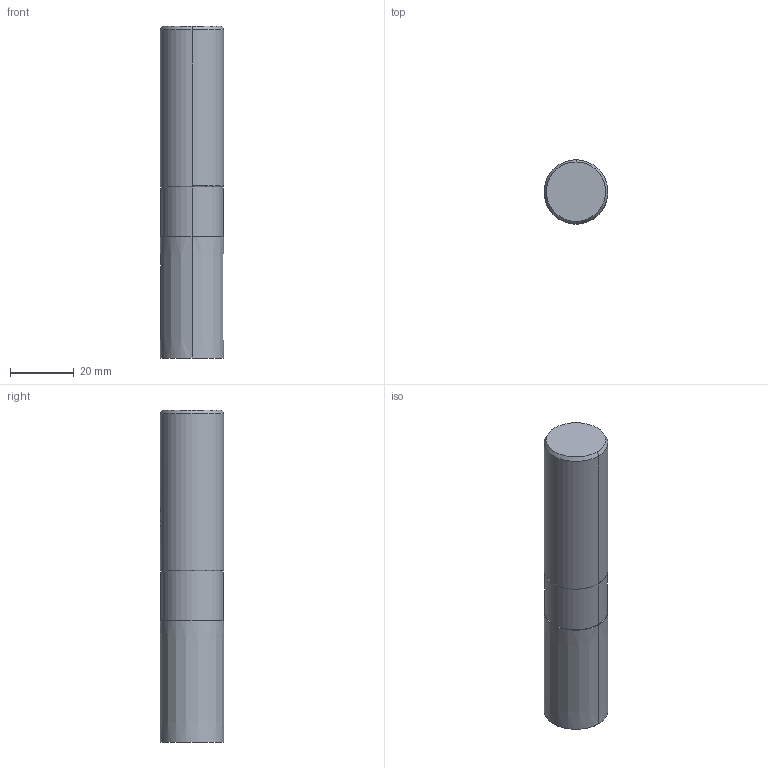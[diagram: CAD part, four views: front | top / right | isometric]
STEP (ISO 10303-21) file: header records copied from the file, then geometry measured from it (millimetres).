
FILE_DESCRIPTION(('no description'),'unknown implementation level');
FILE_NAME('solid9qM8N5L0OMnIfCv4RcjYnYqOme4_1.STP',' ',('CIMSOURCE GmbH'),('CADClick - KiM GmbH - www.kimweb.de'),'unknown preprocess','ACIS','unknown authorization');
FILE_SCHEMA(('automotive_design'));
Length unit declared in the file: millimetre
Products named in the file (2): NOCUT; CUT
Bounding box: 20 x 20 x 104 mm (x, y, z)
Volume: 32400 mm3; surface area: 10276.5 mm2
Topology: 2 solids, 2 shells, 41 faces, 93 edges, 58 vertices
Faces by surface type: cylinder 16, cone 14, plane 11
Entity records: 2652 total; most frequent: CARTESIAN_POINT 578, DIRECTION 211, STYLED_ITEM 194, PRESENTATION_STYLE_ASSIGNMENT 194, COLOUR_RGB 194, ORIENTED_EDGE 186, EDGE_CURVE 93, CURVE_STYLE 93
